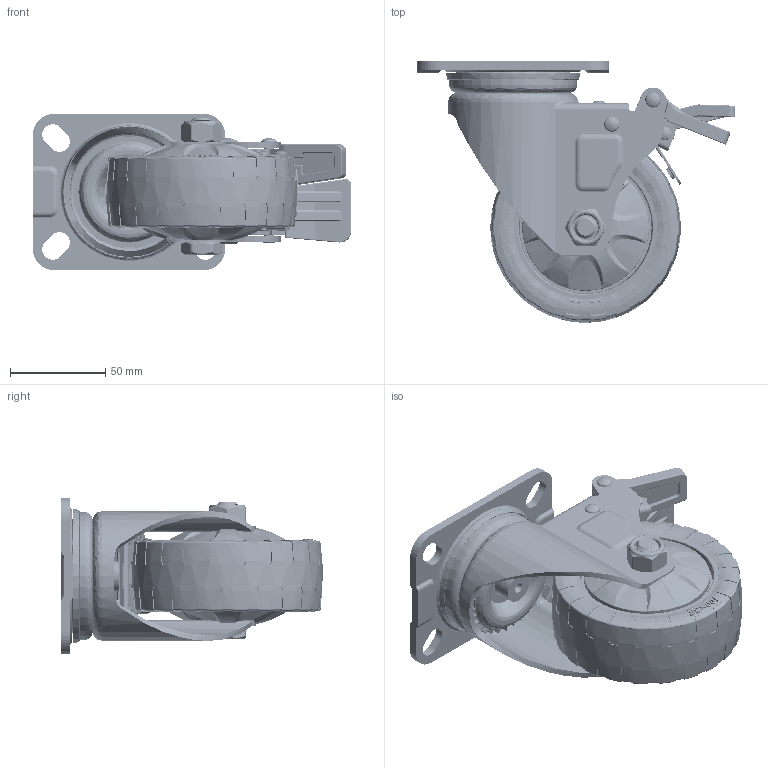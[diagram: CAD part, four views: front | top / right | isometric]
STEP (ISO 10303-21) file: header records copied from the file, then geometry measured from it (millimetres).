
FILE_DESCRIPTION (( 'STEP AP214' ), '1' );
FILE_NAME ('J05S-01D-100-352.STEP', '2025-10-01T10:10:01', ( '' ), ( '' ), 'SwSTEP 2.0', 'SolidWorks 2022', '' );
FILE_SCHEMA (( 'AUTOMOTIVE_DESIGN' ));
Length unit declared in the file: millimetre
Products named in the file (1): J05S-01D-100-352
Bounding box: 166.94 x 136.86 x 82 mm (x, y, z)
Volume: 389896.7 mm3; surface area: 252623.5 mm2
Topology: 99 solids, 99 shells, 6374 faces, 17326 edges, 10399 vertices
Faces by surface type: bspline 2612, cylinder 1864, plane 1548, cone 350
Entity records: 398438 total; most frequent: CARTESIAN_POINT 199040, ORIENTED_EDGE 32842, DIRECTION 17938, EDGE_CURVE 16421, VERTEX_POINT 10399, B_SPLINE_CURVE_WITH_KNOTS 8326, AXIS2_PLACEMENT_3D 7154, EDGE_LOOP 6658
